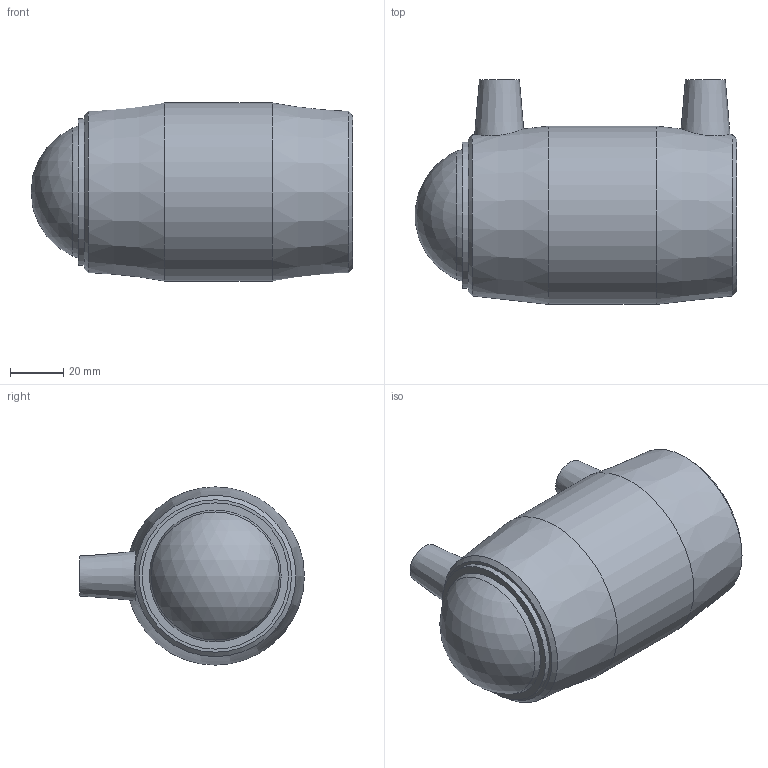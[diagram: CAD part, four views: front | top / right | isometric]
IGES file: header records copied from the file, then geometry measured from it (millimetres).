
Global section: file name: 491204050.ipt; native system: Autodesk Inventor 2015; preprocessor: unknown; author: KIM; date: 20171106.093751; units: millimetre
Bounding box: 120.83 x 84.5 x 67 mm (x, y, z)
Volume: 189220.2 mm3; surface area: 46172.8 mm2
Topology: 1 solids, 1 shells, 37 faces, 82 edges, 58 vertices
Faces by surface type: plane 13, revolution 13, cone 6, cylinder 4, sphere 1
Full cylindrical faces by diameter (mm): 4 x2, 55 x1, 67 x1
